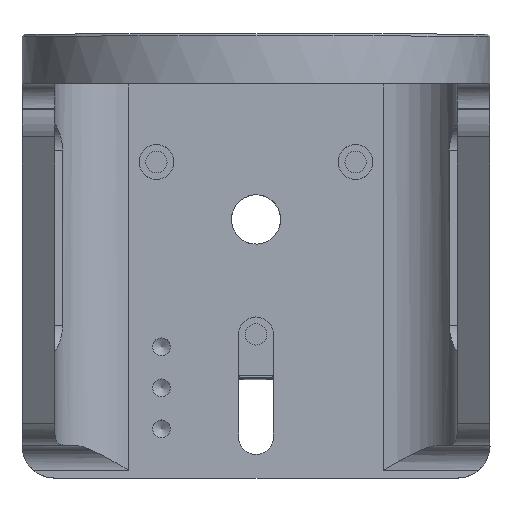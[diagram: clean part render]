
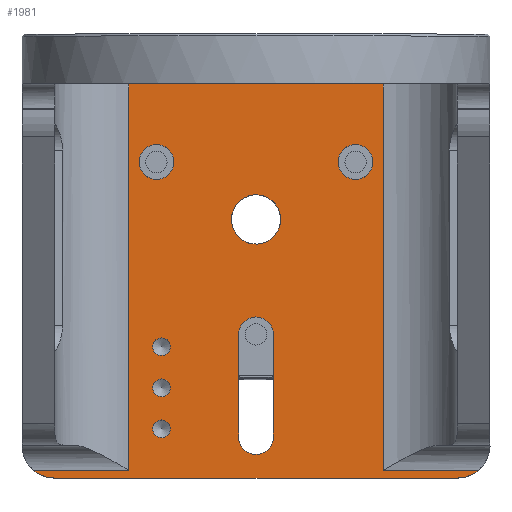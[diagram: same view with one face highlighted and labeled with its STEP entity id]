
A CAD part, top view. The second image highlights one B-rep face of the part: STEP entity #1981.
In plain terms, the highlighted planar face has unit normal (0, 0, 1).
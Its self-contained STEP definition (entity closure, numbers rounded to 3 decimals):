
#1386=FACE_BOUND('',#2785,.T.);
#1387=FACE_BOUND('',#2786,.T.);
#1388=FACE_BOUND('',#2787,.T.);
#1389=FACE_BOUND('',#2788,.T.);
#1390=FACE_BOUND('',#2789,.T.);
#1391=FACE_BOUND('',#2790,.T.);
#1392=FACE_BOUND('',#2791,.T.);
#1393=FACE_BOUND('',#2792,.T.);
#1981=ADVANCED_FACE('',(#1386,#1387,#1388,#1389,#1390,#1391,#1392,#1393),
#2353,.T.);
#2353=PLANE('',#8087);
#2785=EDGE_LOOP('',(#4456));
#2786=EDGE_LOOP('',(#4457));
#2787=EDGE_LOOP('',(#4458));
#2788=EDGE_LOOP('',(#4459));
#2789=EDGE_LOOP('',(#4460));
#2790=EDGE_LOOP('',(#4461,#4462,#4463,#4464));
#2791=EDGE_LOOP('',(#4465,#4466,#4467,#4468,#4469,#4470,#4471,#4472));
#2792=EDGE_LOOP('',(#4473));
#3392=LINE('',#11323,#3812);
#3393=LINE('',#11327,#3813);
#3394=LINE('',#11328,#3814);
#3395=LINE('',#11333,#3815);
#3396=LINE('',#11335,#3816);
#3397=LINE('',#11337,#3817);
#3398=LINE('',#11339,#3818);
#3399=LINE('',#11341,#3819);
#3812=VECTOR('',#8915,1.);
#3813=VECTOR('',#8918,1.);
#3814=VECTOR('',#8919,1.);
#3815=VECTOR('',#8922,1.);
#3816=VECTOR('',#8923,1.);
#3817=VECTOR('',#8924,1.);
#3818=VECTOR('',#8925,1.);
#3819=VECTOR('',#8926,1.);
#4456=ORIENTED_EDGE('',*,*,#7014,.T.);
#4457=ORIENTED_EDGE('',*,*,#7015,.T.);
#4458=ORIENTED_EDGE('',*,*,#7016,.T.);
#4459=ORIENTED_EDGE('',*,*,#7017,.F.);
#4460=ORIENTED_EDGE('',*,*,#7018,.F.);
#4461=ORIENTED_EDGE('',*,*,#7019,.F.);
#4462=ORIENTED_EDGE('',*,*,#7020,.F.);
#4463=ORIENTED_EDGE('',*,*,#7021,.F.);
#4464=ORIENTED_EDGE('',*,*,#7022,.F.);
#4465=ORIENTED_EDGE('',*,*,#7023,.T.);
#4466=ORIENTED_EDGE('',*,*,#7024,.T.);
#4467=ORIENTED_EDGE('',*,*,#7025,.T.);
#4468=ORIENTED_EDGE('',*,*,#7026,.T.);
#4469=ORIENTED_EDGE('',*,*,#7027,.F.);
#4470=ORIENTED_EDGE('',*,*,#7028,.F.);
#4471=ORIENTED_EDGE('',*,*,#7029,.T.);
#4472=ORIENTED_EDGE('',*,*,#7030,.T.);
#4473=ORIENTED_EDGE('',*,*,#7010,.T.);
#6267=VERTEX_POINT('',#11302);
#6270=VERTEX_POINT('',#11311);
#6271=VERTEX_POINT('',#11313);
#6272=VERTEX_POINT('',#11315);
#6273=VERTEX_POINT('',#11317);
#6274=VERTEX_POINT('',#11319);
#6275=VERTEX_POINT('',#11321);
#6276=VERTEX_POINT('',#11322);
#6277=VERTEX_POINT('',#11324);
#6278=VERTEX_POINT('',#11326);
#6279=VERTEX_POINT('',#11329);
#6280=VERTEX_POINT('',#11330);
#6281=VERTEX_POINT('',#11332);
#6282=VERTEX_POINT('',#11334);
#6283=VERTEX_POINT('',#11336);
#6284=VERTEX_POINT('',#11338);
#6285=VERTEX_POINT('',#11340);
#6286=VERTEX_POINT('',#11342);
#7010=EDGE_CURVE('',#6267,#6267,#7780,.T.);
#7014=EDGE_CURVE('',#6270,#6270,#7782,.T.);
#7015=EDGE_CURVE('',#6271,#6271,#7783,.T.);
#7016=EDGE_CURVE('',#6272,#6272,#7784,.T.);
#7017=EDGE_CURVE('',#6273,#6273,#7785,.T.);
#7018=EDGE_CURVE('',#6274,#6274,#7786,.T.);
#7019=EDGE_CURVE('',#6275,#6276,#7787,.T.);
#7020=EDGE_CURVE('',#6277,#6275,#3392,.T.);
#7021=EDGE_CURVE('',#6278,#6277,#7788,.T.);
#7022=EDGE_CURVE('',#6276,#6278,#3393,.T.);
#7023=EDGE_CURVE('',#6279,#6280,#3394,.T.);
#7024=EDGE_CURVE('',#6280,#6281,#7789,.T.);
#7025=EDGE_CURVE('',#6281,#6282,#3395,.T.);
#7026=EDGE_CURVE('',#6282,#6283,#3396,.T.);
#7027=EDGE_CURVE('',#6284,#6283,#3397,.T.);
#7028=EDGE_CURVE('',#6285,#6284,#3398,.T.);
#7029=EDGE_CURVE('',#6285,#6286,#3399,.T.);
#7030=EDGE_CURVE('',#6286,#6279,#7790,.T.);
#7780=CIRCLE('',#8074,6.);
#7782=CIRCLE('',#8078,2.15);
#7783=CIRCLE('',#8079,2.15);
#7784=CIRCLE('',#8080,2.15);
#7785=CIRCLE('',#8081,4.25);
#7786=CIRCLE('',#8082,4.25);
#7787=CIRCLE('',#8083,4.25);
#7788=CIRCLE('',#8084,4.25);
#7789=CIRCLE('',#8085,8.);
#7790=CIRCLE('',#8086,8.);
#8074=AXIS2_PLACEMENT_3D('',#11301,#8893,#8894);
#8078=AXIS2_PLACEMENT_3D('',#11310,#8903,#8904);
#8079=AXIS2_PLACEMENT_3D('',#11312,#8905,#8906);
#8080=AXIS2_PLACEMENT_3D('',#11314,#8907,#8908);
#8081=AXIS2_PLACEMENT_3D('',#11316,#8909,#8910);
#8082=AXIS2_PLACEMENT_3D('',#11318,#8911,#8912);
#8083=AXIS2_PLACEMENT_3D('',#11320,#8913,#8914);
#8084=AXIS2_PLACEMENT_3D('',#11325,#8916,#8917);
#8085=AXIS2_PLACEMENT_3D('',#11331,#8920,#8921);
#8086=AXIS2_PLACEMENT_3D('',#11343,#8927,#8928);
#8087=AXIS2_PLACEMENT_3D('',#11344,#8929,#8930);
#8893=DIRECTION('',(0.,0.,-1.));
#8894=DIRECTION('',(1.,0.,0.));
#8903=DIRECTION('',(0.,0.,-1.));
#8904=DIRECTION('',(1.,0.,0.));
#8905=DIRECTION('',(0.,0.,-1.));
#8906=DIRECTION('',(1.,0.,0.));
#8907=DIRECTION('',(0.,0.,-1.));
#8908=DIRECTION('',(1.,0.,0.));
#8909=DIRECTION('',(0.,0.,1.));
#8910=DIRECTION('',(-1.,0.,0.));
#8911=DIRECTION('',(0.,0.,1.));
#8912=DIRECTION('',(-1.,0.,0.));
#8913=DIRECTION('',(0.,0.,1.));
#8914=DIRECTION('',(1.,0.,0.));
#8915=DIRECTION('',(0.,1.,0.));
#8916=DIRECTION('',(0.,0.,1.));
#8917=DIRECTION('',(1.,0.,0.));
#8918=DIRECTION('',(0.,-1.,0.));
#8919=DIRECTION('',(1.,0.,0.));
#8920=DIRECTION('',(0.,0.,1.));
#8921=DIRECTION('',(-1.,0.,0.));
#8922=DIRECTION('',(-1.,0.,0.));
#8923=DIRECTION('',(0.,1.,0.));
#8924=DIRECTION('',(1.,0.,0.));
#8925=DIRECTION('',(0.,1.,0.));
#8926=DIRECTION('',(-1.,0.,0.));
#8927=DIRECTION('',(0.,0.,1.));
#8928=DIRECTION('',(-1.,0.,0.));
#8929=DIRECTION('',(0.,0.,1.));
#8930=DIRECTION('',(-1.,0.,0.));
#11301=CARTESIAN_POINT('',(57.,63.,12.));
#11302=CARTESIAN_POINT('',(63.,63.,12.));
#11310=CARTESIAN_POINT('',(34.,32.,12.));
#11311=CARTESIAN_POINT('',(36.15,32.,12.));
#11312=CARTESIAN_POINT('',(34.,22.,12.));
#11313=CARTESIAN_POINT('',(36.15,22.,12.));
#11314=CARTESIAN_POINT('',(34.,12.,12.));
#11315=CARTESIAN_POINT('',(36.15,12.,12.));
#11316=CARTESIAN_POINT('',(32.751,77.,12.));
#11317=CARTESIAN_POINT('',(28.501,77.,12.));
#11318=CARTESIAN_POINT('',(81.249,77.,12.));
#11319=CARTESIAN_POINT('',(76.999,77.,12.));
#11320=CARTESIAN_POINT('',(57.,35.,12.));
#11321=CARTESIAN_POINT('',(61.25,35.,12.));
#11322=CARTESIAN_POINT('',(52.75,35.,12.));
#11323=CARTESIAN_POINT('',(61.25,10.,12.));
#11324=CARTESIAN_POINT('',(61.25,10.,12.));
#11325=CARTESIAN_POINT('',(57.,10.,12.));
#11326=CARTESIAN_POINT('',(52.75,10.,12.));
#11327=CARTESIAN_POINT('',(52.75,35.,12.));
#11328=CARTESIAN_POINT('',(57.,0.,12.));
#11329=CARTESIAN_POINT('',(8.,0.,12.));
#11330=CARTESIAN_POINT('',(106.,0.,12.));
#11331=CARTESIAN_POINT('',(106.,8.,12.));
#11332=CARTESIAN_POINT('',(111.176,1.9,12.));
#11333=CARTESIAN_POINT('',(88.,1.9,12.));
#11334=CARTESIAN_POINT('',(88.,1.9,12.));
#11335=CARTESIAN_POINT('',(88.,-34.,12.));
#11336=CARTESIAN_POINT('',(88.,96.,12.));
#11337=CARTESIAN_POINT('',(26.,96.,12.));
#11338=CARTESIAN_POINT('',(26.,96.,12.));
#11339=CARTESIAN_POINT('',(26.,-34.,12.));
#11340=CARTESIAN_POINT('',(26.,1.9,12.));
#11341=CARTESIAN_POINT('',(0.,1.9,12.));
#11342=CARTESIAN_POINT('',(2.824,1.9,12.));
#11343=CARTESIAN_POINT('',(8.,8.,12.));
#11344=CARTESIAN_POINT('',(-16.,8.,12.));
